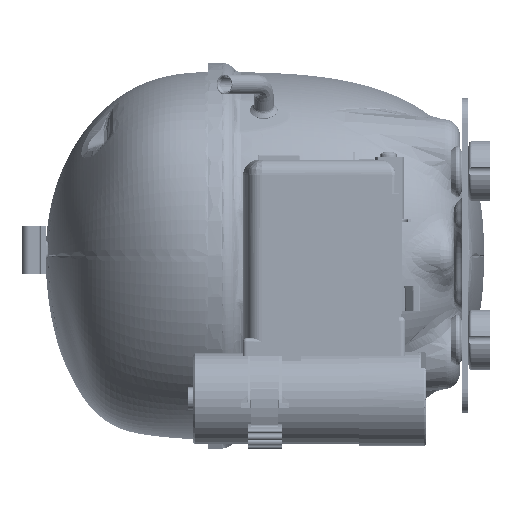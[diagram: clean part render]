
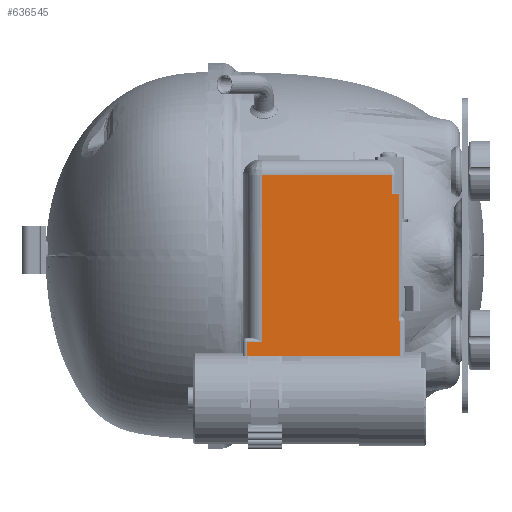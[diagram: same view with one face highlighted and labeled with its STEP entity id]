
A CAD part, left-side view. The second image highlights one B-rep face of the part: STEP entity #636545.
In plain terms, the highlighted planar face has unit normal (-1, 0, 0) as drawn and (1, 0, 0) by its records, which use the part's own axes.
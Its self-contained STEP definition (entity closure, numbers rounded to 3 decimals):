
#621454=DIRECTION('',(0.,0.,-1.));
#621455=VECTOR('',#621454,69.1);
#621456=CARTESIAN_POINT('',(39.,25.478,35.2));
#621457=LINE('',#621456,#621455);
#621458=DIRECTION('',(0.,-1.,0.));
#621459=VECTOR('',#621458,54.021);
#621460=CARTESIAN_POINT('',(39.,25.478,-33.9));
#621461=LINE('',#621460,#621459);
#621462=CARTESIAN_POINT('',(39.,-23.543,-33.9));
#621463=DIRECTION('',(1.,0.,0.));
#621464=DIRECTION('',(0.,-1.,0.009));
#621465=AXIS2_PLACEMENT_3D('',#621462,#621463,#621464);
#621467=DIRECTION('',(0.,-1.,0.));
#621468=VECTOR('',#621467,3.022);
#621469=CARTESIAN_POINT('',(39.,-28.478,-26.4));
#621470=LINE('',#621469,#621468);
#621471=DIRECTION('',(0.,-1.,0.));
#621472=VECTOR('',#621471,0.6);
#621473=CARTESIAN_POINT('',(39.,-31.5,26.7));
#621474=LINE('',#621473,#621472);
#621475=DIRECTION('',(0.,0.,-1.));
#621476=VECTOR('',#621475,14.5);
#621477=CARTESIAN_POINT('',(39.,-32.1,41.2));
#621478=LINE('',#621477,#621476);
#621479=DIRECTION('',(0.,1.,0.));
#621480=VECTOR('',#621479,63.9);
#621481=CARTESIAN_POINT('',(39.,-32.1,41.2));
#621482=LINE('',#621481,#621480);
#621483=DIRECTION('',(0.,0.,-1.));
#621484=VECTOR('',#621483,6.);
#621485=CARTESIAN_POINT('',(39.,31.8,41.2));
#621486=LINE('',#621485,#621484);
#621529=DIRECTION('',(0.,1.,0.));
#621530=VECTOR('',#621529,6.322);
#621531=CARTESIAN_POINT('',(39.,25.478,35.2));
#621532=LINE('',#621531,#621530);
#629150=CARTESIAN_POINT('',(39.,25.478,-33.9));
#632830=DIRECTION('',(0.,-0.009,-1.));
#632831=VECTOR('',#632830,7.457);
#632832=CARTESIAN_POINT('',(39.,-28.478,-26.4));
#632833=LINE('',#632832,#632831);
#632864=DIRECTION('',(0.,0.,-1.));
#632865=VECTOR('',#632864,53.1);
#632866=CARTESIAN_POINT('',(39.,-31.5,26.7));
#632867=LINE('',#632866,#632865);
#633147=CARTESIAN_POINT('',(39.,31.8,41.2));
#633149=VERTEX_POINT('',#633147);
#633151=CARTESIAN_POINT('',(39.,-32.1,41.2));
#633152=VERTEX_POINT('',#633151);
#633154=CARTESIAN_POINT('',(39.,31.8,35.2));
#633156=VERTEX_POINT('',#633154);
#633215=CARTESIAN_POINT('',(39.,-32.1,26.7));
#633216=VERTEX_POINT('',#633215);
#633219=CARTESIAN_POINT('',(39.,-31.5,26.7));
#633220=VERTEX_POINT('',#633219);
#633222=CARTESIAN_POINT('',(39.,-31.5,-26.4));
#633224=VERTEX_POINT('',#633222);
#633225=CARTESIAN_POINT('',(39.,-28.478,-26.4));
#633226=VERTEX_POINT('',#633225);
#633649=VERTEX_POINT('',#629150);
#633654=CARTESIAN_POINT('',(39.,25.478,35.2));
#633655=VERTEX_POINT('',#633654);
#633656=CARTESIAN_POINT('',(39.,-28.543,-33.9));
#633657=VERTEX_POINT('',#633656);
#633977=CARTESIAN_POINT('',(39.,-28.543,-33.856));
#633978=VERTEX_POINT('',#633977);
#636520=CARTESIAN_POINT('',(39.,-30.1,41.2));
#636521=DIRECTION('',(1.,0.,0.));
#636522=DIRECTION('',(0.,1.,0.));
#636523=AXIS2_PLACEMENT_3D('',#636520,#636521,#636522);
#636524=PLANE('',#636523);
#636526=ORIENTED_EDGE('',*,*,#636525,.T.);
#636528=ORIENTED_EDGE('',*,*,#636527,.T.);
#636529=ORIENTED_EDGE('',*,*,#636510,.F.);
#636531=ORIENTED_EDGE('',*,*,#636530,.F.);
#636533=ORIENTED_EDGE('',*,*,#636532,.T.);
#636535=ORIENTED_EDGE('',*,*,#636534,.F.);
#636536=ORIENTED_EDGE('',*,*,#636442,.T.);
#636537=ORIENTED_EDGE('',*,*,#636416,.F.);
#636538=ORIENTED_EDGE('',*,*,#636372,.T.);
#636540=ORIENTED_EDGE('',*,*,#636539,.T.);
#636542=ORIENTED_EDGE('',*,*,#636541,.F.);
#636543=EDGE_LOOP('',(#636526,#636528,#636529,#636531,#636533,#636535,#636536,
#636537,#636538,#636540,#636542));
#636544=FACE_OUTER_BOUND('',#636543,.F.);
#636545=ADVANCED_FACE('',(#636544),#636524,.T.);
#621466=CIRCLE('',#621465,5.);
#636372=EDGE_CURVE('',#633152,#633149,#621482,.T.);
#636416=EDGE_CURVE('',#633152,#633216,#621478,.T.);
#636442=EDGE_CURVE('',#633220,#633216,#621474,.T.);
#636510=EDGE_CURVE('',#633978,#633657,#621466,.T.);
#636525=EDGE_CURVE('',#633655,#633649,#621457,.T.);
#636527=EDGE_CURVE('',#633649,#633657,#621461,.T.);
#636530=EDGE_CURVE('',#633226,#633978,#632833,.T.);
#636532=EDGE_CURVE('',#633226,#633224,#621470,.T.);
#636534=EDGE_CURVE('',#633220,#633224,#632867,.T.);
#636539=EDGE_CURVE('',#633149,#633156,#621486,.T.);
#636541=EDGE_CURVE('',#633655,#633156,#621532,.T.);
